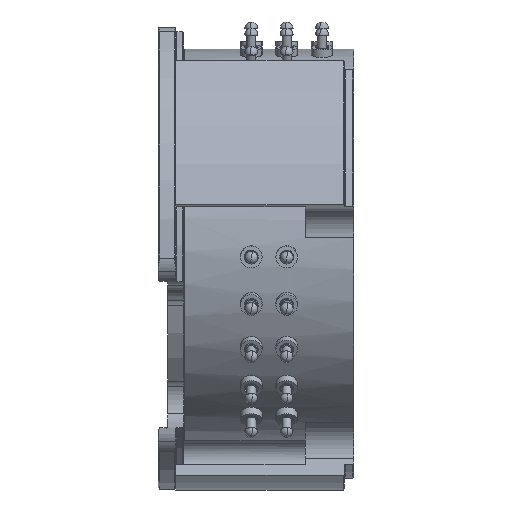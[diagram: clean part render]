
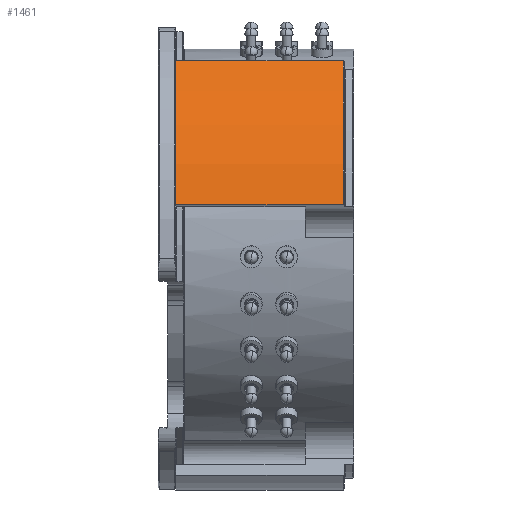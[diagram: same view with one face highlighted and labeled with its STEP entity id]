
A CAD part, left-side view. The second image highlights one B-rep face of the part: STEP entity #1461.
In plain terms, the highlighted cylindrical face has radius 26.683 mm (diameter 53.365 mm), a partial arc.
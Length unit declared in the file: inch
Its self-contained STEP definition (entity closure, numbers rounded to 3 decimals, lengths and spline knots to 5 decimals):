
#905 = CYLINDRICAL_SURFACE ( 'NONE', #14678, 1.0505 ) ;
#1461 = ADVANCED_FACE ( 'NONE', ( #84277 ), #905, .T. ) ;
#10829 = VECTOR ( 'NONE', #113460, 39.37008 ) ;
#14678 = AXIS2_PLACEMENT_3D ( 'NONE', #19783, #45964, #65975 ) ;
#15088 = CARTESIAN_POINT ( 'NONE',  ( -1.03454, 0.77, 0.18242 ) ) ;
#15136 = DIRECTION ( 'NONE',  ( 0., 0., 1. ) ) ;
#17392 = CARTESIAN_POINT ( 'NONE',  ( -1.03454, 0.045, 0.18242 ) ) ;
#19783 = CARTESIAN_POINT ( 'NONE',  ( 0., 0.73, 0. ) ) ;
#29145 = AXIS2_PLACEMENT_3D ( 'NONE', #88758, #70483, #15136 ) ;
#29236 = DIRECTION ( 'NONE',  ( 0., 1., 0. ) ) ;
#30049 = EDGE_CURVE ( 'NONE', #90446, #57746, #105190, .T. ) ;
#30116 = EDGE_CURVE ( 'NONE', #90446, #69581, #85502, .T. ) ;
#30157 = CARTESIAN_POINT ( 'NONE',  ( -0.67525, 0., 0.80473 ) ) ;
#37530 = ORIENTED_EDGE ( 'NONE', *, *, #30049, .F. ) ;
#38849 = VECTOR ( 'NONE', #104000, 39.37008 ) ;
#41058 = LINE ( 'NONE', #30157, #10829 ) ;
#45964 = DIRECTION ( 'NONE',  ( 0., -1., 0. ) ) ;
#46661 = CIRCLE ( 'NONE', #93309, 1.0505 ) ;
#53889 = EDGE_LOOP ( 'NONE', ( #80062, #37530, #115323, #116679 ) ) ;
#57746 = VERTEX_POINT ( 'NONE', #15088 ) ;
#65975 = DIRECTION ( 'NONE',  ( 0., 0., -1. ) ) ;
#66297 = DIRECTION ( 'NONE',  ( 0., 0., 1. ) ) ;
#68026 = CARTESIAN_POINT ( 'NONE',  ( -0.67525, 0.045, 0.80473 ) ) ;
#69581 = VERTEX_POINT ( 'NONE', #68026 ) ;
#70483 = DIRECTION ( 'NONE',  ( 0., 1., 0. ) ) ;
#80062 = ORIENTED_EDGE ( 'NONE', *, *, #115757, .F. ) ;
#84277 = FACE_OUTER_BOUND ( 'NONE', #53889, .T. ) ;
#85502 = CIRCLE ( 'NONE', #29145, 1.0505 ) ;
#86385 = CARTESIAN_POINT ( 'NONE',  ( 0., 0.77, 0. ) ) ;
#88758 = CARTESIAN_POINT ( 'NONE',  ( 0., 0.045, 0. ) ) ;
#90446 = VERTEX_POINT ( 'NONE', #17392 ) ;
#93309 = AXIS2_PLACEMENT_3D ( 'NONE', #86385, #29236, #66297 ) ;
#104000 = DIRECTION ( 'NONE',  ( 0., 1., 0. ) ) ;
#104967 = CARTESIAN_POINT ( 'NONE',  ( -0.67525, 0.77, 0.80473 ) ) ;
#105190 = LINE ( 'NONE', #113119, #38849 ) ;
#113119 = CARTESIAN_POINT ( 'NONE',  ( -1.03454, 0., 0.18242 ) ) ;
#113161 = EDGE_CURVE ( 'NONE', #69581, #119985, #41058, .T. ) ;
#113460 = DIRECTION ( 'NONE',  ( 0., 1., 0. ) ) ;
#115323 = ORIENTED_EDGE ( 'NONE', *, *, #30116, .T. ) ;
#115757 = EDGE_CURVE ( 'NONE', #57746, #119985, #46661, .T. ) ;
#116679 = ORIENTED_EDGE ( 'NONE', *, *, #113161, .T. ) ;
#119985 = VERTEX_POINT ( 'NONE', #104967 ) ;
